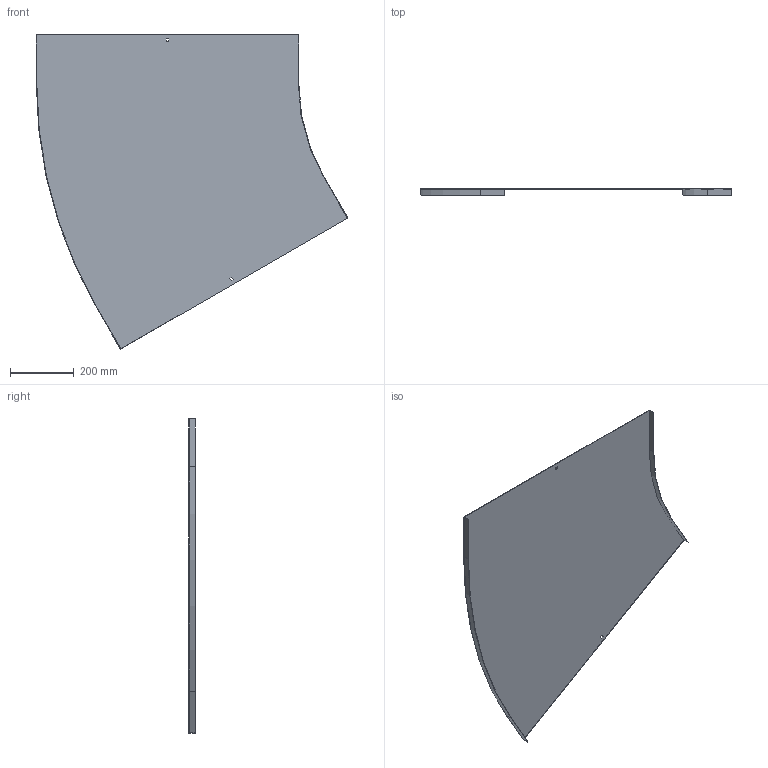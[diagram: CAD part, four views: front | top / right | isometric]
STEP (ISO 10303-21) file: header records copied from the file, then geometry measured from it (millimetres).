
FILE_DESCRIPTION (( 'STEP AP214' ), '1' );
FILE_NAME ('12N6P800.step', '2025-02-21T13:34:42', ( '' ), ( '' ), 'SwSTEP 2.0', 'SolidWorks 2023', '' );
FILE_SCHEMA (( 'AUTOMOTIVE_DESIGN' ));
Length unit declared in the file: millimetre
Products named in the file (1): 12N6P800
Bounding box: 976.84 x 20 x 985.65 mm (x, y, z)
Volume: 1062266.9 mm3; surface area: 1421499.7 mm2
Topology: 1 solids, 1 shells, 26 faces, 72 edges, 48 vertices
Faces by surface type: plane 22, cylinder 4
Entity records: 855 total; most frequent: CARTESIAN_POINT 147, ORIENTED_EDGE 144, DIRECTION 134, EDGE_CURVE 72, VECTOR 64, LINE 64, VERTEX_POINT 48, AXIS2_PLACEMENT_3D 35
